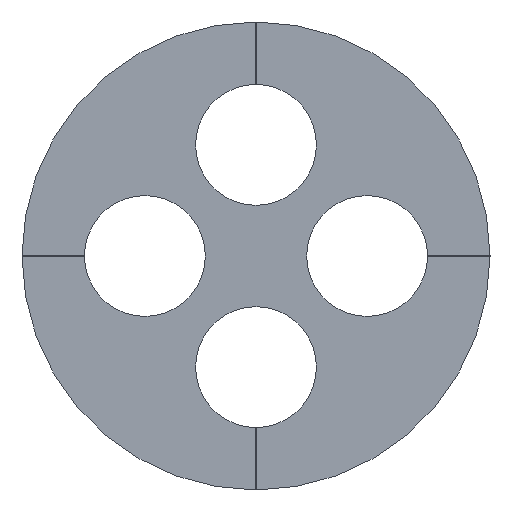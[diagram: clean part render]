
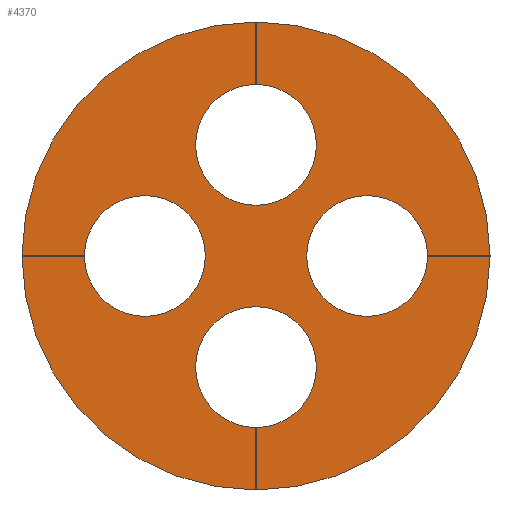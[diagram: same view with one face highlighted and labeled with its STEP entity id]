
A CAD part, left-side view. The second image highlights one B-rep face of the part: STEP entity #4370.
In plain terms, the highlighted planar face has unit normal (-1, 0, 0) as drawn and (0, 0, -1) by its records, which use the part's own axes.
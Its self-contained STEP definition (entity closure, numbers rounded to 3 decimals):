
#2520=CARTESIAN_POINT('',(17.795,56.22,0.));
#2530=VERTEX_POINT('',#2520);
#2610=CARTESIAN_POINT('',(17.785,56.22,0.));
#2620=VERTEX_POINT('',#2610);
#2650=CARTESIAN_POINT('',(17.79,53.12,0.));
#2660=DIRECTION('',(0.,0.,1.));
#2670=DIRECTION('',(1.,0.,0.));
#2680=AXIS2_PLACEMENT_3D('',#2650,#2660,#2670);
#2690=CIRCLE('',#2680,3.1);
#2700=EDGE_CURVE('',#2620,#2530,#2690,.T.);
#2840=CARTESIAN_POINT('',(17.785,38.62,0.));
#2850=VERTEX_POINT('',#2840);
#2930=CARTESIAN_POINT('',(17.795,38.62,0.));
#2940=VERTEX_POINT('',#2930);
#2970=CARTESIAN_POINT('',(17.79,41.72,0.));
#2980=DIRECTION('',(0.,0.,1.));
#2990=DIRECTION('',(1.,0.,0.));
#3000=AXIS2_PLACEMENT_3D('',#2970,#2980,#2990);
#3010=CIRCLE('',#3000,3.1);
#3020=EDGE_CURVE('',#2940,#2850,#3010,.T.);
#3160=CARTESIAN_POINT('',(8.99,47.425,0.));
#3170=VERTEX_POINT('',#3160);
#3250=CARTESIAN_POINT('',(8.99,47.415,0.));
#3260=VERTEX_POINT('',#3250);
#3290=CARTESIAN_POINT('',(12.09,47.42,0.));
#3300=DIRECTION('',(0.,0.,1.));
#3310=DIRECTION('',(1.,0.,0.));
#3320=AXIS2_PLACEMENT_3D('',#3290,#3300,#3310);
#3330=CIRCLE('',#3320,3.1);
#3340=EDGE_CURVE('',#3260,#3170,#3330,.T.);
#3390=CARTESIAN_POINT('',(0.,0.,0.));
#3400=DIRECTION('',(0.,0.,1.));
#3410=DIRECTION('',(1.,0.,0.));
#3420=AXIS2_PLACEMENT_3D('',#3390,#3400,#3410);
#3430=PLANE('',#3420);
#3440=CARTESIAN_POINT('',(17.785,0.,0.));
#3450=DIRECTION('',(0.,-1.,0.));
#3460=VECTOR('',#3450,1.);
#3470=LINE('',#3440,#3460);
#3480=CARTESIAN_POINT('',(17.785,59.42,0.));
#3490=VERTEX_POINT('',#3480);
#3500=EDGE_CURVE('',#3490,#2620,#3470,.T.);
#3510=ORIENTED_EDGE('',*,*,#3500,.T.);
#3520=CARTESIAN_POINT('',(17.79,47.42,0.));
#3530=DIRECTION('',(0.,0.,1.));
#3540=DIRECTION('',(1.,0.,0.));
#3550=AXIS2_PLACEMENT_3D('',#3520,#3530,#3540);
#3560=CIRCLE('',#3550,12.);
#3570=CARTESIAN_POINT('',(5.79,47.425,0.));
#3580=VERTEX_POINT('',#3570);
#3590=EDGE_CURVE('',#3490,#3580,#3560,.T.);
#3600=ORIENTED_EDGE('',*,*,#3590,.F.);
#3610=CARTESIAN_POINT('',(0.,47.425,0.));
#3620=DIRECTION('',(-1.,0.,0.));
#3630=VECTOR('',#3620,1.);
#3640=LINE('',#3610,#3630);
#3650=EDGE_CURVE('',#3170,#3580,#3640,.T.);
#3660=ORIENTED_EDGE('',*,*,#3650,.T.);
#3670=ORIENTED_EDGE('',*,*,#3340,.T.);
#3680=CARTESIAN_POINT('',(0.,47.415,0.));
#3690=DIRECTION('',(1.,0.,0.));
#3700=VECTOR('',#3690,1.);
#3710=LINE('',#3680,#3700);
#3720=CARTESIAN_POINT('',(5.79,47.415,0.));
#3730=VERTEX_POINT('',#3720);
#3740=EDGE_CURVE('',#3730,#3260,#3710,.T.);
#3750=ORIENTED_EDGE('',*,*,#3740,.T.);
#3760=CARTESIAN_POINT('',(17.785,35.42,0.));
#3770=VERTEX_POINT('',#3760);
#3780=EDGE_CURVE('',#3730,#3770,#3560,.T.);
#3790=ORIENTED_EDGE('',*,*,#3780,.F.);
#3800=CARTESIAN_POINT('',(17.785,0.,0.));
#3810=DIRECTION('',(0.,-1.,0.));
#3820=VECTOR('',#3810,1.);
#3830=LINE('',#3800,#3820);
#3840=EDGE_CURVE('',#2850,#3770,#3830,.T.);
#3850=ORIENTED_EDGE('',*,*,#3840,.T.);
#3860=ORIENTED_EDGE('',*,*,#3020,.T.);
#3870=CARTESIAN_POINT('',(17.795,0.,0.));
#3880=DIRECTION('',(0.,1.,0.));
#3890=VECTOR('',#3880,1.);
#3900=LINE('',#3870,#3890);
#3910=CARTESIAN_POINT('',(17.795,35.42,0.));
#3920=VERTEX_POINT('',#3910);
#3930=EDGE_CURVE('',#3920,#2940,#3900,.T.);
#3940=ORIENTED_EDGE('',*,*,#3930,.T.);
#3950=CARTESIAN_POINT('',(29.79,47.415,0.));
#3960=VERTEX_POINT('',#3950);
#3970=EDGE_CURVE('',#3920,#3960,#3560,.T.);
#3980=ORIENTED_EDGE('',*,*,#3970,.F.);
#3990=CARTESIAN_POINT('',(0.,47.415,0.));
#4000=DIRECTION('',(1.,0.,0.));
#4010=VECTOR('',#4000,1.);
#4020=LINE('',#3990,#4010);
#4030=CARTESIAN_POINT('',(26.59,47.415,0.));
#4040=VERTEX_POINT('',#4030);
#4050=EDGE_CURVE('',#4040,#3960,#4020,.T.);
#4060=ORIENTED_EDGE('',*,*,#4050,.T.);
#4070=CARTESIAN_POINT('',(23.49,47.42,0.));
#4080=DIRECTION('',(0.,0.,1.));
#4090=DIRECTION('',(1.,0.,0.));
#4100=AXIS2_PLACEMENT_3D('',#4070,#4080,#4090);
#4110=CIRCLE('',#4100,3.1);
#4120=CARTESIAN_POINT('',(26.59,47.425,0.));
#4130=VERTEX_POINT('',#4120);
#4140=EDGE_CURVE('',#4130,#4040,#4110,.T.);
#4150=ORIENTED_EDGE('',*,*,#4140,.T.);
#4160=CARTESIAN_POINT('',(0.,47.425,0.));
#4170=DIRECTION('',(-1.,0.,0.));
#4180=VECTOR('',#4170,1.);
#4190=LINE('',#4160,#4180);
#4200=CARTESIAN_POINT('',(29.79,47.425,0.));
#4210=VERTEX_POINT('',#4200);
#4220=EDGE_CURVE('',#4210,#4130,#4190,.T.);
#4230=ORIENTED_EDGE('',*,*,#4220,.T.);
#4240=CARTESIAN_POINT('',(17.795,59.42,0.));
#4250=VERTEX_POINT('',#4240);
#4260=EDGE_CURVE('',#4210,#4250,#3560,.T.);
#4270=ORIENTED_EDGE('',*,*,#4260,.F.);
#4280=CARTESIAN_POINT('',(17.795,0.,0.));
#4290=DIRECTION('',(0.,1.,0.));
#4300=VECTOR('',#4290,1.);
#4310=LINE('',#4280,#4300);
#4320=EDGE_CURVE('',#2530,#4250,#4310,.T.);
#4330=ORIENTED_EDGE('',*,*,#4320,.T.);
#4340=ORIENTED_EDGE('',*,*,#2700,.T.);
#4350=EDGE_LOOP('',(#4340,#4330,#4270,#4230,#4150,#4060,#3980,#3940,
#3860,#3850,#3790,#3750,#3670,#3660,#3600,#3510));
#4360=FACE_OUTER_BOUND('',#4350,.T.);
#4370=ADVANCED_FACE('',(#4360),#3430,.F.);
